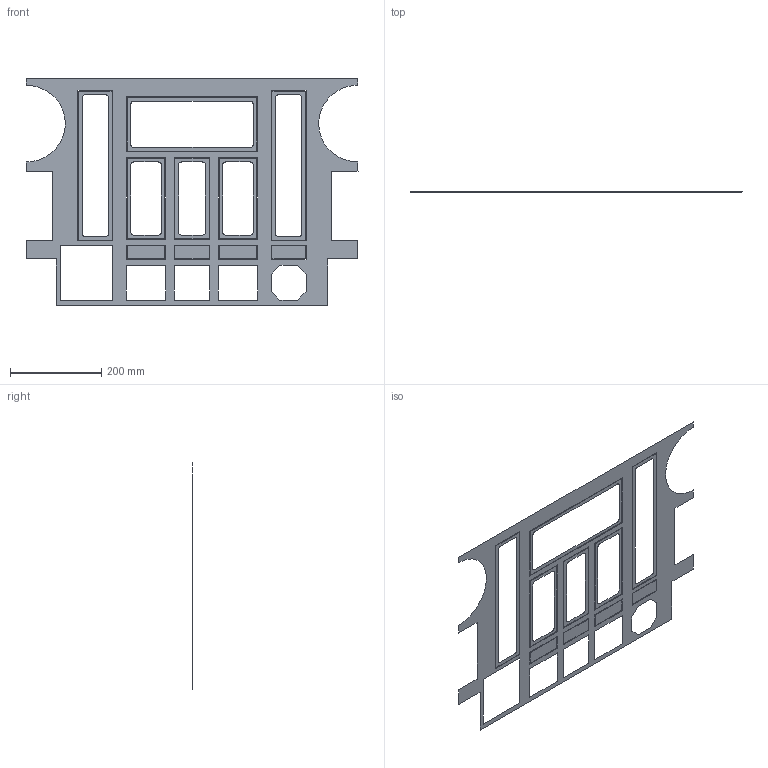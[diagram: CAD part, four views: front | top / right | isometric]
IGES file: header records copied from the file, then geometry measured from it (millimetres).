
Start section: 3D InterOp IGES (Version 21 0 3), Spatial Corp. Copyright (c) 1999-2007.
Global section: file name: CSR SKIN Outer Rear ESB - 20140501_Surface.igs; native system: Spatial Corp.; preprocessor: 3D InterOp GENERIC/IGES 3.0; author: Noname; organization: Noname; date: 20140519.181042; units: inch
Bounding box: 728.14 x 0 x 496.89 mm (x, y, z)
Surface area: 169095.8 mm2 (no closed solid volume)
Topology: 0 solids, 0 shells, 11 faces, 176 edges, 176 vertices
Faces by surface type: extrusion 11
